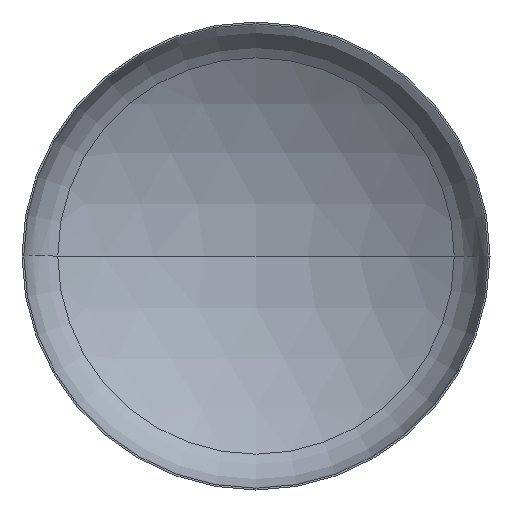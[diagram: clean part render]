
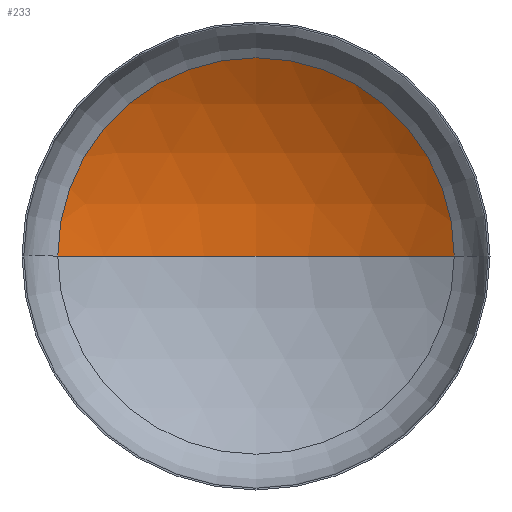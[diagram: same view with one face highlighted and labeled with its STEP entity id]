
A CAD part, front view. The second image highlights one B-rep face of the part: STEP entity #233.
In plain terms, the highlighted spherical face has radius 5600 mm.
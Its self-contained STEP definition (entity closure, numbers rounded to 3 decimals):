
#3 = DIRECTION ( 'NONE',  ( 0., 0., 1. ) ) ;
#13 = DIRECTION ( 'NONE',  ( 1., 0., 0. ) ) ;
#15 = CARTESIAN_POINT ( 'NONE',  ( 0., -3749.573, 0. ) ) ;
#31 = CARTESIAN_POINT ( 'NONE',  ( 0., -3749.573, 0. ) ) ;
#35 = VERTEX_POINT ( 'NONE', #273 ) ;
#41 = ORIENTED_EDGE ( 'NONE', *, *, #178, .T. ) ;
#49 = DIRECTION ( 'NONE',  ( -1., 0., 0. ) ) ;
#54 = ORIENTED_EDGE ( 'NONE', *, *, #181, .T. ) ;
#59 = DIRECTION ( 'NONE',  ( 0., 0., -1. ) ) ;
#65 = AXIS2_PLACEMENT_3D ( 'NONE', #31, #59, #49 ) ;
#83 = VERTEX_POINT ( 'NONE', #240 ) ;
#97 = ORIENTED_EDGE ( 'NONE', *, *, #183, .F. ) ;
#98 = EDGE_LOOP ( 'NONE', ( #97, #54, #41 ) ) ;
#104 = CARTESIAN_POINT ( 'NONE',  ( 2964.779, 1001.225, 0. ) ) ;
#122 = AXIS2_PLACEMENT_3D ( 'NONE', #15, #3, #13 ) ;
#126 = AXIS2_PLACEMENT_3D ( 'NONE', #235, #231, #230 ) ;
#128 = AXIS2_PLACEMENT_3D ( 'NONE', #218, #195, #197 ) ;
#178 = EDGE_CURVE ( 'NONE', #284, #35, #266, .T. ) ;
#181 = EDGE_CURVE ( 'NONE', #83, #284, #196, .T. ) ;
#183 = EDGE_CURVE ( 'NONE', #83, #35, #364, .T. ) ;
#195 = DIRECTION ( 'NONE',  ( 0., -1., 0. ) ) ;
#196 = CIRCLE ( 'NONE', #126, 5600. ) ;
#197 = DIRECTION ( 'NONE',  ( 1., 0., 0. ) ) ;
#218 = CARTESIAN_POINT ( 'NONE',  ( 0., 1001.225, 0. ) ) ;
#230 = DIRECTION ( 'NONE',  ( -1., 0., 0. ) ) ;
#231 = DIRECTION ( 'NONE',  ( 0., 0., -1. ) ) ;
#233 = ADVANCED_FACE ( 'NONE', ( #242 ), #407, .F. ) ;
#235 = CARTESIAN_POINT ( 'NONE',  ( 0., -3749.573, 0. ) ) ;
#240 = CARTESIAN_POINT ( 'NONE',  ( 0., 1850.427, 0. ) ) ;
#242 = FACE_OUTER_BOUND ( 'NONE', #98, .T. ) ;
#266 = CIRCLE ( 'NONE', #128, 2964.779 ) ;
#273 = CARTESIAN_POINT ( 'NONE',  ( -2964.779, 1001.225, 0. ) ) ;
#284 = VERTEX_POINT ( 'NONE', #104 ) ;
#364 = CIRCLE ( 'NONE', #122, 5600. ) ;
#407 = SPHERICAL_SURFACE ( 'NONE', #65, 5600. ) ;
